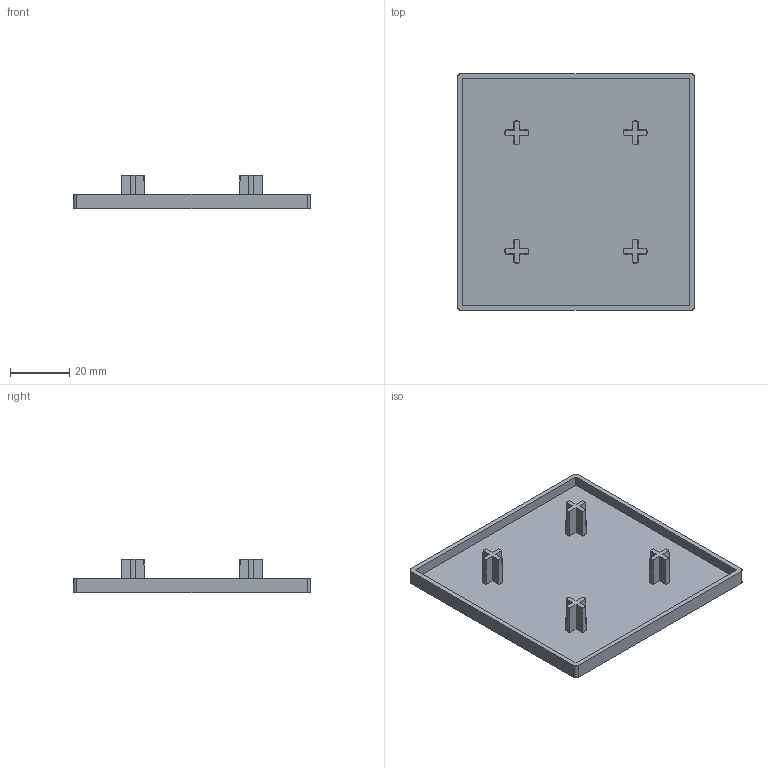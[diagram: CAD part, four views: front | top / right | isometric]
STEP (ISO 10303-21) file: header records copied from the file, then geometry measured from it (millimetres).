
FILE_DESCRIPTION (( 'STEP AP203' ), '1' );
FILE_NAME ('DEC8080.STEP', '2022-06-24T02:14:02', ( '' ), ( '' ), 'SwSTEP 2.0', 'SolidWorks 2017', '' );
FILE_SCHEMA (( 'CONFIG_CONTROL_DESIGN' ));
Length unit declared in the file: millimetre
Products named in the file (1): DEC8080
Bounding box: 80 x 80 x 11.5 mm (x, y, z)
Volume: 12214.3 mm3; surface area: 16663.8 mm2
Topology: 1 solids, 1 shells, 75 faces, 204 edges, 136 vertices
Faces by surface type: plane 47, cone 24, cylinder 4
Entity records: 2531 total; most frequent: CARTESIAN_POINT 560, ORIENTED_EDGE 408, DIRECTION 380, EDGE_CURVE 204, VERTEX_POINT 136, AXIS2_PLACEMENT_3D 132, VECTOR 116, LINE 116
